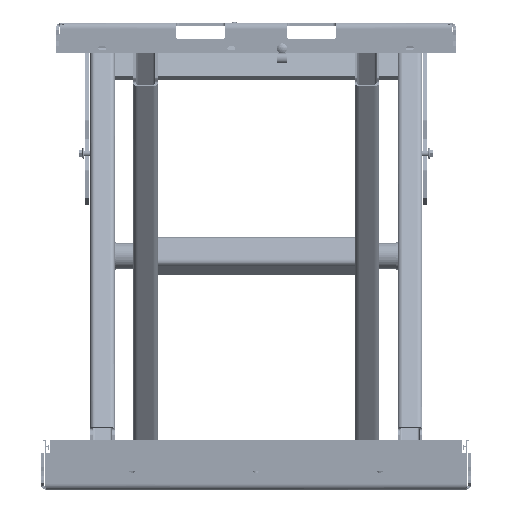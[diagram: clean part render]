
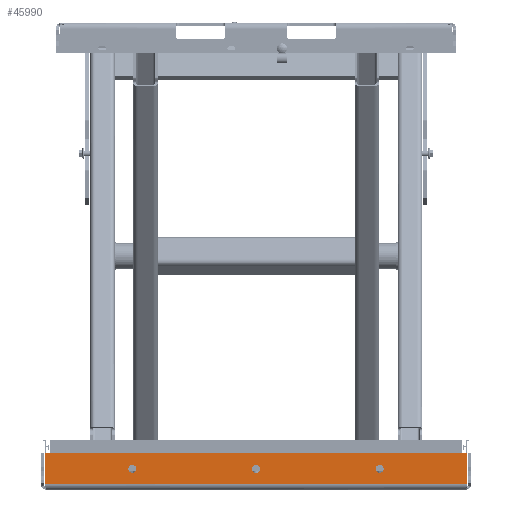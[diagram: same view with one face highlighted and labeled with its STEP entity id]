
A CAD part, front view. The second image highlights one B-rep face of the part: STEP entity #45990.
In plain terms, the highlighted planar face has unit normal (0, -1, 0).
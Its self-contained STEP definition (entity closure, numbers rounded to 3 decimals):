
#1478=FACE_BOUND('',#6489,.T.);
#1479=FACE_BOUND('',#6490,.T.);
#1480=FACE_BOUND('',#6491,.T.);
#2080=PLANE('',#49571);
#3738=FACE_OUTER_BOUND('',#6488,.T.);
#6488=EDGE_LOOP('',(#34260,#34261,#34262,#34263));
#6489=EDGE_LOOP('',(#34264));
#6490=EDGE_LOOP('',(#34265));
#6491=EDGE_LOOP('',(#34266));
#9259=CIRCLE('',#49540,6.5);
#9263=CIRCLE('',#49546,6.5);
#9267=CIRCLE('',#49552,6.5);
#11606=LINE('',#72209,#15889);
#11612=LINE('',#72242,#15895);
#11616=LINE('',#72316,#15899);
#11618=LINE('',#72319,#15901);
#15889=VECTOR('',#56027,10.);
#15895=VECTOR('',#56037,10.);
#15899=VECTOR('',#56043,10.);
#15901=VECTOR('',#56047,10.);
#20759=VERTEX_POINT('',#72040);
#20763=VERTEX_POINT('',#72050);
#20767=VERTEX_POINT('',#72060);
#20779=VERTEX_POINT('',#72207);
#20780=VERTEX_POINT('',#72208);
#20785=VERTEX_POINT('',#72241);
#20786=VERTEX_POINT('',#72315);
#25837=EDGE_CURVE('',#20759,#20759,#9259,.T.);
#25841=EDGE_CURVE('',#20763,#20763,#9263,.T.);
#25845=EDGE_CURVE('',#20767,#20767,#9267,.T.);
#25869=EDGE_CURVE('',#20779,#20780,#11606,.T.);
#25877=EDGE_CURVE('',#20785,#20780,#11612,.T.);
#25883=EDGE_CURVE('',#20779,#20786,#11616,.T.);
#25885=EDGE_CURVE('',#20786,#20785,#11618,.T.);
#34260=ORIENTED_EDGE('',*,*,#25869,.T.);
#34261=ORIENTED_EDGE('',*,*,#25877,.F.);
#34262=ORIENTED_EDGE('',*,*,#25885,.F.);
#34263=ORIENTED_EDGE('',*,*,#25883,.F.);
#34264=ORIENTED_EDGE('',*,*,#25837,.T.);
#34265=ORIENTED_EDGE('',*,*,#25841,.T.);
#34266=ORIENTED_EDGE('',*,*,#25845,.T.);
#45990=ADVANCED_FACE('',(#3738,#1478,#1479,#1480),#2080,.T.);
#49540=AXIS2_PLACEMENT_3D('',#72041,#55957,#55958);
#49546=AXIS2_PLACEMENT_3D('',#72051,#55969,#55970);
#49552=AXIS2_PLACEMENT_3D('',#72061,#55981,#55982);
#49571=AXIS2_PLACEMENT_3D('',#72320,#56048,#56049);
#55957=DIRECTION('center_axis',(0.,1.,0.));
#55958=DIRECTION('ref_axis',(1.,0.,0.));
#55969=DIRECTION('center_axis',(0.,1.,0.));
#55970=DIRECTION('ref_axis',(1.,0.,0.));
#55981=DIRECTION('center_axis',(0.,1.,0.));
#55982=DIRECTION('ref_axis',(1.,0.,0.));
#56027=DIRECTION('',(-1.,0.,0.));
#56037=DIRECTION('',(0.,0.,1.));
#56043=DIRECTION('',(0.,0.,-1.));
#56047=DIRECTION('',(-1.,0.,0.));
#56048=DIRECTION('center_axis',(0.,-1.,0.));
#56049=DIRECTION('ref_axis',(1.,0.,0.));
#72040=CARTESIAN_POINT('',(-194.5,-450.,-29.3));
#72041=CARTESIAN_POINT('Origin',(-201.,-450.,-29.3));
#72050=CARTESIAN_POINT('',(6.5,-450.,-29.3));
#72051=CARTESIAN_POINT('Origin',(0.,-450.,-29.3));
#72060=CARTESIAN_POINT('',(207.5,-450.,-29.3));
#72061=CARTESIAN_POINT('Origin',(201.,-450.,-29.3));
#72207=CARTESIAN_POINT('',(343.5,-450.,-5.));
#72208=CARTESIAN_POINT('',(-343.5,-450.,-5.));
#72209=CARTESIAN_POINT('',(0.,-450.,-5.));
#72241=CARTESIAN_POINT('',(-343.5,-450.,-55.5));
#72242=CARTESIAN_POINT('',(-343.5,-450.,-5.));
#72315=CARTESIAN_POINT('',(343.5,-450.,-55.5));
#72316=CARTESIAN_POINT('',(343.5,-450.,-5.));
#72319=CARTESIAN_POINT('',(343.5,-450.,-55.5));
#72320=CARTESIAN_POINT('Origin',(0.,-450.,-25.268));
